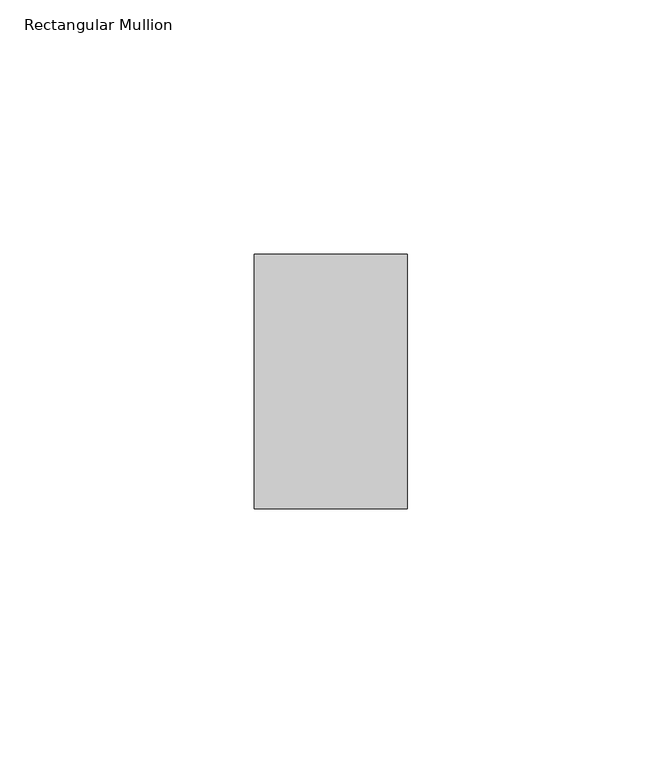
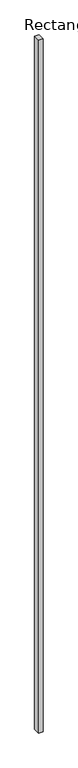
"""IFC4 building model written with IfcOpenShell, lengths in millimetres: member geometry, Rectangular Mullion : ARQ_REJA_MULL_50x30mm."""

from ifc_helpers import new_model, si_unit, frame, origin, place, context, project, spatial, polyline, outline, extrude, source, transform, mapped, element, save


def rectangular_mullion_abe161ce(model_context):
    return source(origin(), model_context, "Body", "SweptSolid", [
        extrude(outline(polyline([(0.0, 25.0), (0.0, -25.0), (-30.0, -25.0), (-30.0, 25.0), (0.0, 25.0)])), frame((0.0, 0.0, -5230.4122456), z_axis=(0.0, 0.0, 1.0), x_axis=(1.0, 0.0, 0.0)), (0.0, 0.0, 1.0), 5230.4122456),
    ])


if __name__ == "__main__":
    model = new_model("IFC4")
    model_context = context("Model", 3, world=origin())
    ifc_project = project(units=[si_unit("LENGTHUNIT", "METRE", prefix="MILLI")], contexts=[model_context])
    site = spatial("IfcSite", under=ifc_project)
    building = spatial("IfcBuilding", under=site)
    placement = place(None, origin())
    rectangular_mullion_shape = rectangular_mullion_abe161ce(model_context)
    element("IfcMember", 1, ObjectType="Rectangular Mullion : ARQ_REJA_MULL_50x30mm", at=placement, inside=building, context=model_context, shape_type="MappedRepresentation", body=[
        mapped(rectangular_mullion_shape, transform((0.0, 0.0, 0.0), x_axis=(1.0, 0.0, 0.0), y_axis=(0.0, 1.0, 0.0), z_axis=(0.0, 0.0, 1.0))),
    ])
    save(model, "model.ifc")
